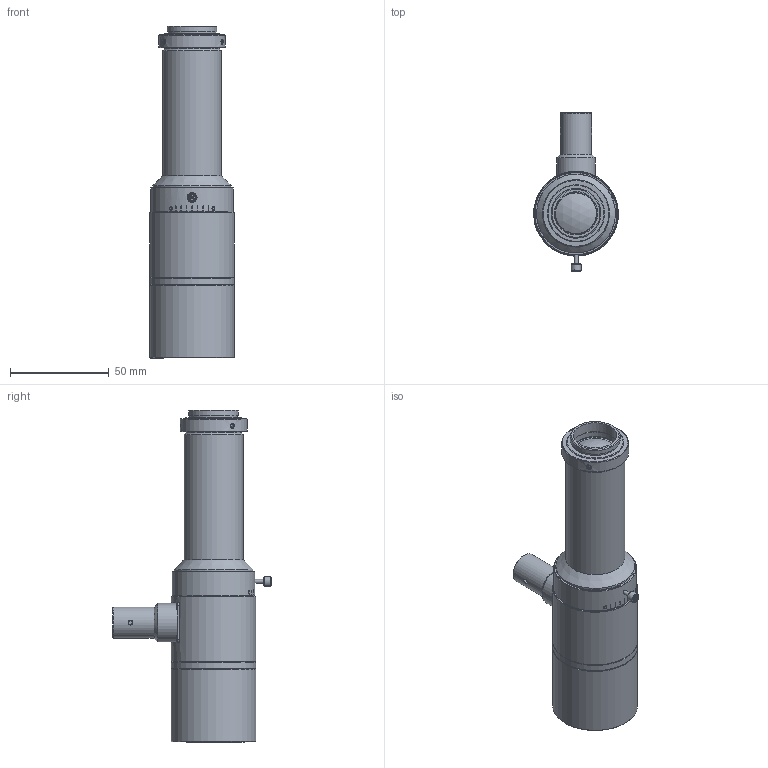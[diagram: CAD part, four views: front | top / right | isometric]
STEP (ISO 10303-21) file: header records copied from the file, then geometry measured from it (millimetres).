
FILE_DESCRIPTION(('STEP AP214'),'1');
FILE_NAME('TPC4-HMS110D-VIE-FIL.stp','2026-06-02T07:16:56',(' '),(' '),'Spatial InterOp 3D',' ',' ');
FILE_SCHEMA(('AUTOMOTIVE_DESIGN { 1 0 10303 214 1 1 1 1 }'));
Length unit declared in the file: metre
Products named in the file (2): TPC4-HMS110D-VIE-FIL; Component1
Assembly tree (1 placements, depth 2):
  TPC4-HMS110D-VIE-FIL
    Component1
Bounding box: 43 x 80.45 x 168.51 mm (x, y, z)
Volume: 86325.7 mm3; surface area: 49809.9 mm2
Topology: 1 solids, 21 shells, 591 faces, 1339 edges, 861 vertices
Faces by surface type: plane 262, cylinder 138, cone 127, bspline 46, sphere 9, torus 9
Full cylindrical faces by diameter (mm): 1 x4, 2 x10, 2.3 x4, 2.4 x4, 2.5 x5, 3.6 x1, 5 x1, 6 x1, 8 x1, 10 x1, 12.5 x1, 14 x1, 14.2 x1, 14.4 x1, 15.2 x1, 15.8 x1, 16 x1, 17 x1, 17.5 x1, 18.4 x1, 18.5 x1, 19.2 x1, 19.5 x1, 21 x1, 22 x1, 22.4 x1, 23.2 x1, 24 x1, 24.1 x1, 25.3 x1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
Entity records: 24301 total; most frequent: CARTESIAN_POINT 7621, DIRECTION 2423, ORIENTED_EDGE 2156, EDGE_CURVE 1078, AXIS2_PLACEMENT_3D 1064, EDGE_LOOP 894, VERTEX_POINT 787, FACE_OUTER_BOUND 703
